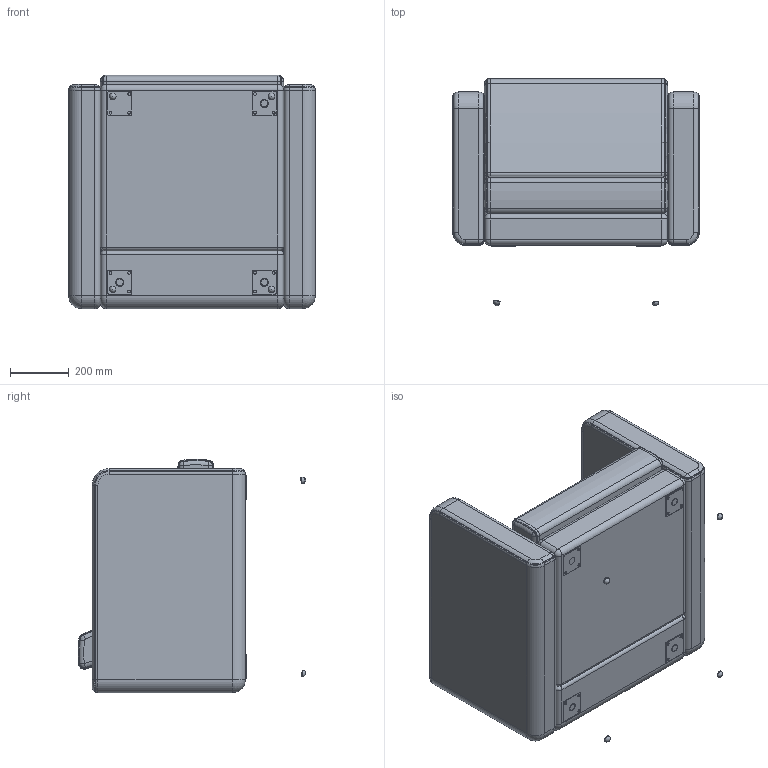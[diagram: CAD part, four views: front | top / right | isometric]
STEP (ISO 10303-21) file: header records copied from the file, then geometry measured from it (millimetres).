
FILE_DESCRIPTION(/* description */ (''),/* implementation_level */ '2;1');
FILE_NAME(/* name */ '9111.step',/* time_stamp */ '2026-07-29T13:58:04-07:00',/* author */ (''),/* organization */ (''),/* preprocessor_version */ 'ST-DEVELOPER v20.1',/* originating_system */ 'Autodesk Translation Framework v15.8.0.0',/* authorisation */ '');
FILE_SCHEMA (('AUTOMOTIVE_DESIGN { 1 0 10303 214 3 1 1 }'));
Length unit declared in the file: inch
Products named in the file (1): 2026-06-05-14-04-39-452
Bounding box: 838.2 x 773.05 x 793.38 mm (x, y, z)
Volume: 246946369.5 mm3; surface area: 6744310.5 mm2
Topology: 25 solids, 25 shells, 473 faces, 1001 edges, 572 vertices
Faces by surface type: cylinder 181, torus 114, plane 90, sphere 40, bspline 40, cone 8
Full cylindrical faces by diameter (mm): 9.525 x12
Entity records: 13954 total; most frequent: CARTESIAN_POINT 3525, DIRECTION 2431, ORIENTED_EDGE 1990, AXIS2_PLACEMENT_3D 1048, EDGE_CURVE 995, CIRCLE 590, VERTEX_POINT 572, EDGE_LOOP 505
